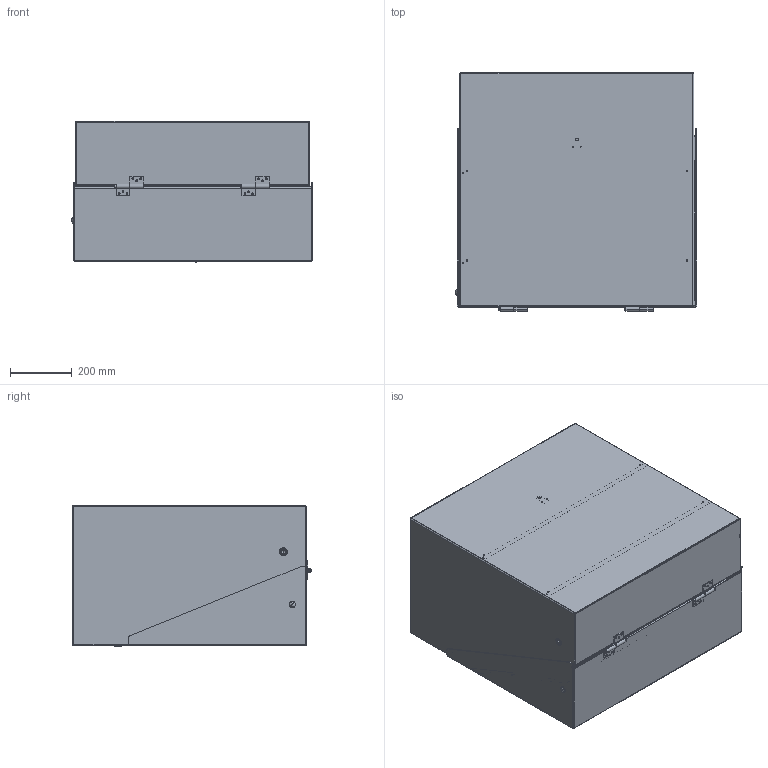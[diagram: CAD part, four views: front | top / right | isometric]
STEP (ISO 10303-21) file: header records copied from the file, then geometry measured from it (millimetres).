
FILE_DESCRIPTION (( 'STEP AP203' ), '1' );
FILE_NAME ('uj303018a.STEP', '2009-03-23T18:02:54', ( '' ), ( '' ), 'SwSTEP 2.0', 'SolidWorks 2007', '' );
FILE_SCHEMA (( 'CONFIG_CONTROL_DESIGN' ));
Length unit declared in the file: inch
Products named in the file (26): 87935780_87935780; 87929183; 87935786_87935786; 87935788_87935788; 87921624_87921624; 87933708_87933708; 87929218_87929218; 87921634_87921634; 87929216_87929216; uj303018a; 87935774_87935774; 87935776_87935776; 87935778_87935778; 87935782_87935782; 87922224_87922224; 87929214_87929214; 87935784_87935784; 87935790_87935790; 87921622_87921621; 87935792_87935792; 87929200_87929199; 87921618_87921618; 87924492_87924492; 78173001_78173001; 87933992_87933992; 87935649_87935649
Assembly tree (30 placements, depth 3):
  uj303018a
    87929200_87929199
    87935784_87935784
      87935790_87935790
      87921622_87921621  x2
      87935792_87935792  x2
      87935786_87935786
      87935788_87935788
    87921624_87921624
    78173001_78173001
    87924492_87924492
    87933708_87933708
      87929218_87929218
      87921618_87921618
    87933992_87933992
      87929216_87929216
      87921634_87921634
    87935649_87935649
    87935774_87935774
      87935782_87935782  x2
      87929183  x2
      87922224_87922224  x2
      87935780_87935780
      87929214_87929214
      87935778_87935778
      87935776_87935776
Bounding box: 783.51 x 776.38 x 459.87 mm (x, y, z)
Volume: 8487384.4 mm3; surface area: 5455285.5 mm2
Topology: 28 solids, 28 shells, 850 faces, 2027 edges, 1252 vertices
Faces by surface type: plane 496, cylinder 309, cone 26, torus 9, bspline 8, sphere 2
Entity records: 24729 total; most frequent: CARTESIAN_POINT 4524, DIRECTION 3679, ORIENTED_EDGE 3458, EDGE_CURVE 1729, AXIS2_PLACEMENT_3D 1268, VECTOR 1143, LINE 1143, VERTEX_POINT 1071
